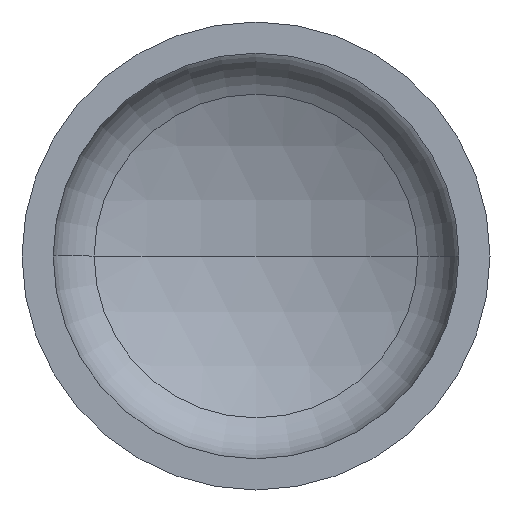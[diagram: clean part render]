
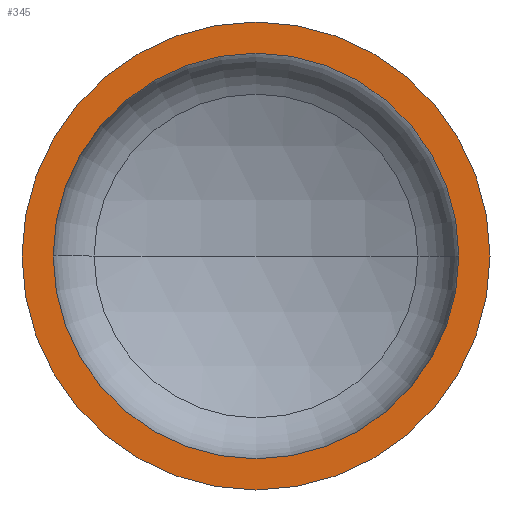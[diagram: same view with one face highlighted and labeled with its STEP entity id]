
A CAD part, front view. The second image highlights one B-rep face of the part: STEP entity #345.
In plain terms, the highlighted planar face has unit normal (0, -1, 0).
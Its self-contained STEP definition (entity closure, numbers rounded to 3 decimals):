
#4 = AXIS2_PLACEMENT_3D ( 'NONE', #167, #267, #125 ) ;
#16 = AXIS2_PLACEMENT_3D ( 'NONE', #403, #402, #129 ) ;
#21 = ORIENTED_EDGE ( 'NONE', *, *, #261, .F. ) ;
#23 = AXIS2_PLACEMENT_3D ( 'NONE', #238, #137, #133 ) ;
#43 = AXIS2_PLACEMENT_3D ( 'NONE', #244, #231, #229 ) ;
#46 = EDGE_CURVE ( 'NONE', #124, #50, #235, .T. ) ;
#50 = VERTEX_POINT ( 'NONE', #297 ) ;
#61 = CIRCLE ( 'NONE', #23, 520. ) ;
#77 = EDGE_LOOP ( 'NONE', ( #21, #108 ) ) ;
#108 = ORIENTED_EDGE ( 'NONE', *, *, #46, .F. ) ;
#124 = VERTEX_POINT ( 'NONE', #369 ) ;
#125 = DIRECTION ( 'NONE',  ( -1., 0., 0. ) ) ;
#129 = DIRECTION ( 'NONE',  ( 1., 0., 0. ) ) ;
#133 = DIRECTION ( 'NONE',  ( 1., 0., 0. ) ) ;
#134 = VERTEX_POINT ( 'NONE', #300 ) ;
#137 = DIRECTION ( 'NONE',  ( 0., -1., 0. ) ) ;
#167 = CARTESIAN_POINT ( 'NONE',  ( -600., 0., 0. ) ) ;
#173 = AXIS2_PLACEMENT_3D ( 'NONE', #294, #370, #224 ) ;
#195 = ORIENTED_EDGE ( 'NONE', *, *, #275, .T. ) ;
#203 = ORIENTED_EDGE ( 'NONE', *, *, #399, .T. ) ;
#215 = PLANE ( 'NONE',  #4 ) ;
#220 = FACE_OUTER_BOUND ( 'NONE', #287, .T. ) ;
#224 = DIRECTION ( 'NONE',  ( 1., 0., 0. ) ) ;
#229 = DIRECTION ( 'NONE',  ( 1., 0., 0. ) ) ;
#231 = DIRECTION ( 'NONE',  ( 0., -1., 0. ) ) ;
#234 = FACE_BOUND ( 'NONE', #77, .T. ) ;
#235 = CIRCLE ( 'NONE', #43, 520. ) ;
#238 = CARTESIAN_POINT ( 'NONE',  ( 0., 0., 0. ) ) ;
#244 = CARTESIAN_POINT ( 'NONE',  ( 0., 0., 0. ) ) ;
#261 = EDGE_CURVE ( 'NONE', #50, #124, #61, .T. ) ;
#267 = DIRECTION ( 'NONE',  ( 0., 1., 0. ) ) ;
#275 = EDGE_CURVE ( 'NONE', #134, #406, #298, .T. ) ;
#277 = CARTESIAN_POINT ( 'NONE',  ( -600., 0., 0. ) ) ;
#287 = EDGE_LOOP ( 'NONE', ( #195, #203 ) ) ;
#294 = CARTESIAN_POINT ( 'NONE',  ( 0., 0., 0. ) ) ;
#297 = CARTESIAN_POINT ( 'NONE',  ( 520., 0., 0. ) ) ;
#298 = CIRCLE ( 'NONE', #16, 600. ) ;
#300 = CARTESIAN_POINT ( 'NONE',  ( 600., 0., 0. ) ) ;
#327 = CIRCLE ( 'NONE', #173, 600. ) ;
#345 = ADVANCED_FACE ( 'NONE', ( #234, #220 ), #215, .F. ) ;
#369 = CARTESIAN_POINT ( 'NONE',  ( -520., 0., 0. ) ) ;
#370 = DIRECTION ( 'NONE',  ( 0., -1., 0. ) ) ;
#399 = EDGE_CURVE ( 'NONE', #406, #134, #327, .T. ) ;
#402 = DIRECTION ( 'NONE',  ( 0., -1., 0. ) ) ;
#403 = CARTESIAN_POINT ( 'NONE',  ( 0., 0., 0. ) ) ;
#406 = VERTEX_POINT ( 'NONE', #277 ) ;
